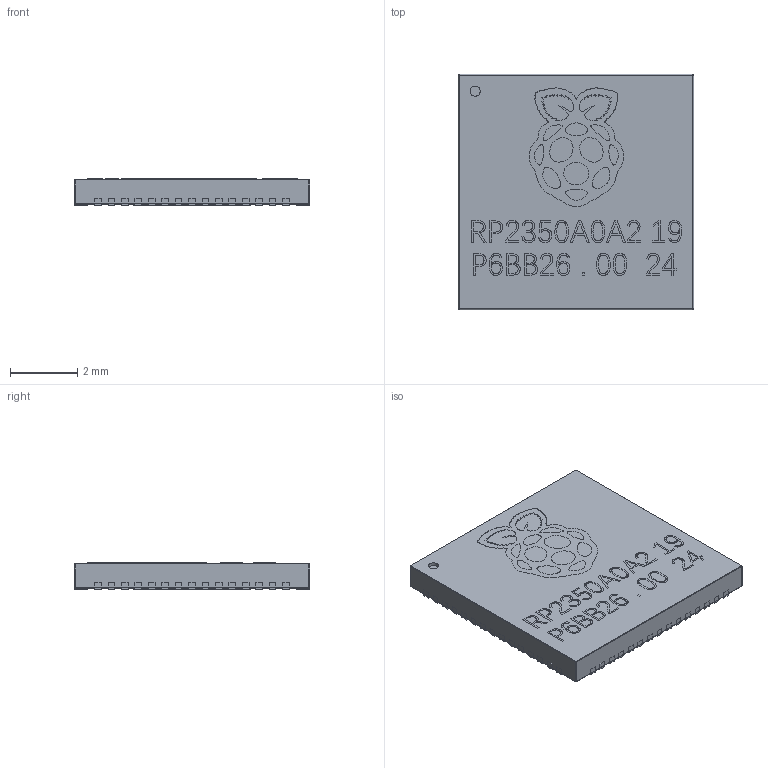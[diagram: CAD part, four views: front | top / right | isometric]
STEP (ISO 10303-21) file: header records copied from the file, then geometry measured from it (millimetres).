
FILE_DESCRIPTION(('FreeCAD Model'),'2;1');
FILE_NAME('Open CASCADE Shape Model','2024-09-03T00:52:31',(''),(''), 'Open CASCADE STEP processor 7.7','FreeCAD','Unknown');
FILE_SCHEMA(('AUTOMOTIVE_DESIGN { 1 0 10303 214 1 1 1 1 }'));
Length unit declared in the file: millimetre
Products named in the file (9): QFN; Scale; ShapeString001; ShapeString; Array001; Array; Fillet; Chamfer; Pocket
Assembly tree (25 placements, depth 4):
  QFN
    Scale
    ShapeString001
    ShapeString
    Array001
      Array  x4
        Fillet
    Chamfer
    Pocket
Bounding box: 7.02 x 7.02 x 0.79 mm (x, y, z)
Volume: 37.9 mm3; surface area: 171.8 mm2
Topology: 62 solids, 86 shells, 539 faces, 1862 edges, 1464 vertices
Faces by surface type: plane 397, cylinder 133, sphere 8, bspline 1
Full cylindrical faces by diameter (mm): 0.3 x1
Entity records: 7862 total; most frequent: CARTESIAN_POINT 3066, ORIENTED_EDGE 876, EDGE_CURVE 792, VERTEX_POINT 756, B_SPLINE_CURVE_WITH_KNOTS 574, DIRECTION 432, LINE 188, VECTOR 188
